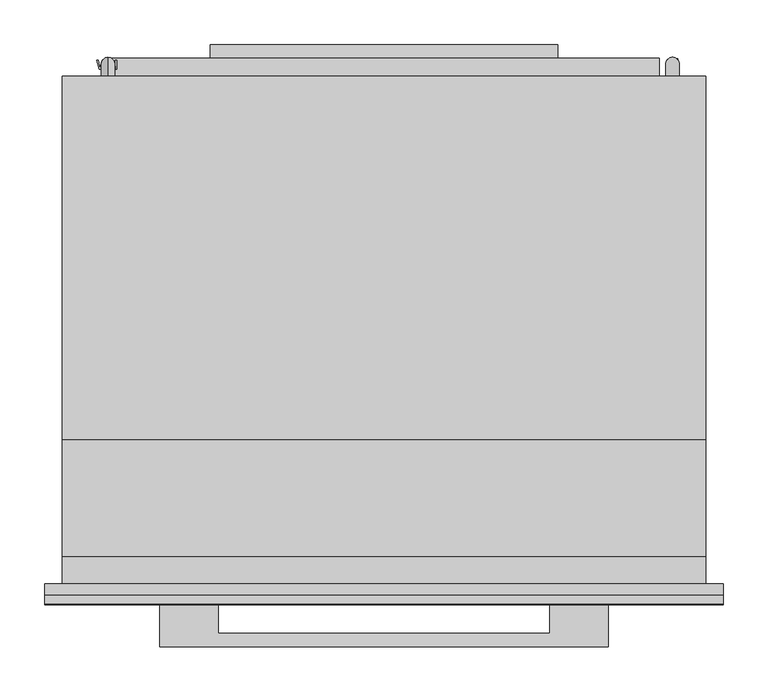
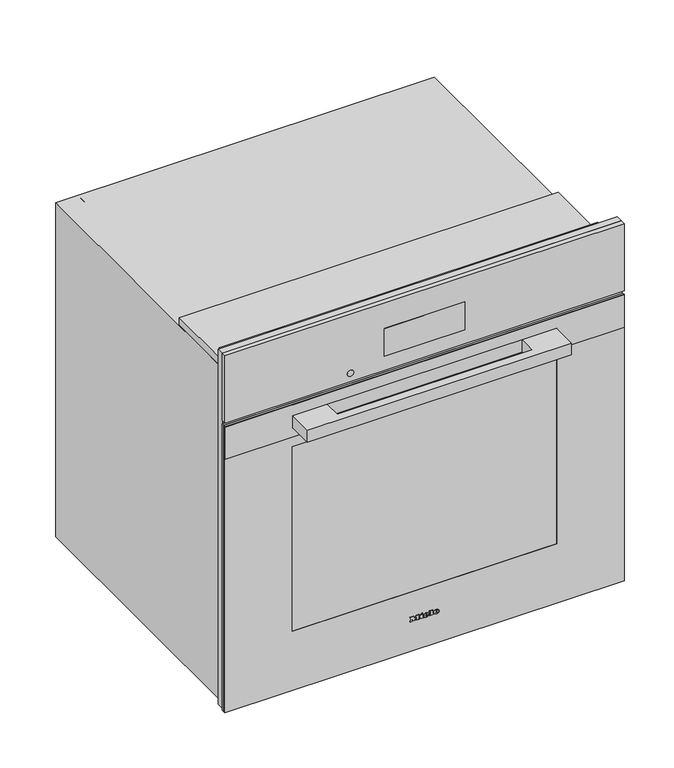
"""IFC4 building model written with IfcOpenShell, lengths in millimetres: proxy geometry, 11788890_BR_H7880BP_EDST-CLST : 22788045_BR_11788890_H7880BP_EDST-CLST."""

from ifc_helpers import new_model, si_unit, point, frame, frame_2d, origin, place, context, project, spatial, polyline, circle_curve, ellipse_curve, trimmed, segment, composite_curve, outline, extrude, faceted_brep, source, transform, mapped, element, save
from ifc_brep_helpers import plane_surface, cylinder_surface, revolved_surface, extruded_surface, advanced_brep


def specialty_equipment_fb274056(model_context):
    return source(origin(), model_context, "Body", "SolidModel", [
        advanced_brep(
        [(21.28, -23.0, 73.133), (21.28, -23.0, 74.042), (27.301, -23.0, 74.042), (16.825, -23.0, 74.042), (19.3, -23.0, 71.0), (27.148, -23.0, 73.133), (24.43, -23.0, 73.133), (22.288, -23.0, 72.125), (21.28, -23.0, 75.194), (21.28, -23.0, 76.175), (22.819, -23.0, 76.175), (22.819, -23.0, 75.194), (21.28, -22.0, 73.133), (22.288, -22.0, 72.125), (24.43, -22.0, 73.133), (27.148, -22.0, 73.133), (19.3, -22.0, 71.0), (16.825, -22.0, 74.042), (27.301, -22.0, 74.042), (21.28, -22.0, 74.042), (21.28, -22.0, 75.194), (22.819, -22.0, 75.194), (22.819, -22.0, 76.175), (21.28, -22.0, 76.175)],
        [
            (0, 1),
            (1, 2),
            (2, 3, ellipse_curve(frame((22.063, -23.0, 74.042), z_axis=(0.0, -1.0, 0.0), x_axis=(-1.0, 0.0, 0.0)), 5.238, 4.329)),
            (3, 4, circle_curve(frame((20.3080491, -23.0, 74.348), z_axis=(0.0, -1.0, 0.0), x_axis=(0.0, 0.0, -1.0)), 3.4964649)),
            (4, 5, circle_curve(frame((21.9581428, -23.0, 76.724), z_axis=(0.0, -1.0, 0.0), x_axis=(0.0, 0.0, -1.0)), 6.3110933)),
            (5, 6),
            (6, 7, circle_curve(frame((22.7279412, -23.0, 73.97), z_axis=(0.0, 1.0, 0.0), x_axis=(0.0, 0.0, -1.0)), 1.896727)),
            (7, 0, circle_curve(frame((22.288, -23.0, 73.133), z_axis=(0.0, 1.0, 0.0), x_axis=(0.0, 0.0, -1.0)), 1.008)),
            (8, 9),
            (9, 10, circle_curve(frame((22.0495, -23.0, 76.175), z_axis=(0.0, 1.0, 0.0), x_axis=(0.0, 0.0, -1.0)), 0.7695)),
            (10, 11),
            (11, 8),
            (12, 13, circle_curve(frame((22.288, -22.0, 73.133), z_axis=(0.0, -1.0, 0.0), x_axis=(0.0, 0.0, -1.0)), 1.008)),
            (13, 14, circle_curve(frame((22.7279412, -22.0, 73.97), z_axis=(0.0, -1.0, 0.0), x_axis=(0.0, 0.0, -1.0)), 1.896727)),
            (14, 15),
            (15, 16, circle_curve(frame((21.9581428, -22.0, 76.724), z_axis=(0.0, 1.0, 0.0), x_axis=(0.0, 0.0, -1.0)), 6.3110933)),
            (16, 17, circle_curve(frame((20.3080491, -22.0, 74.348), z_axis=(0.0, 1.0, 0.0), x_axis=(0.0, 0.0, -1.0)), 3.4964649)),
            (17, 18, ellipse_curve(frame((22.063, -22.0, 74.042), z_axis=(0.0, 1.0, 0.0), x_axis=(-1.0, 0.0, 0.0)), 5.238, 4.329)),
            (18, 19),
            (19, 12),
            (20, 21),
            (21, 22),
            (22, 23, circle_curve(frame((22.0495, -22.0, 76.175), z_axis=(0.0, -1.0, 0.0), x_axis=(0.0, 0.0, -1.0)), 0.7695)),
            (23, 20),
            (0, 12),
            (19, 1),
            (18, 2),
            (5, 15),
            (14, 6),
            (17, 3),
            (13, 7),
            (16, 4),
            (8, 20),
            (23, 9),
            (22, 10),
            (21, 11),
        ],
        [
            plane_surface(frame((21.28, -23.0, 74.042), z_axis=(0.0, -1.0, 0.0), x_axis=(0.0, 0.0, 1.0))),
            plane_surface(frame((21.28, -22.0, 74.042), z_axis=(0.0, 1.0, 0.0), x_axis=(0.0, 0.0, -1.0))),
            plane_surface(frame((21.28, -23.0, 73.133), z_axis=(1.0, 0.0, 0.0), x_axis=(0.0, 1.0, 0.0))),
            plane_surface(frame((21.28, -23.0, 74.042), z_axis=(0.0, 0.0, -1.0), x_axis=(0.0, 1.0, 0.0))),
            plane_surface(frame((27.148, -23.0, 73.133), z_axis=(0.0, 0.0, 1.0), x_axis=(0.0, 1.0, 0.0))),
            extruded_surface(trimmed(ellipse_curve(frame((22.063, -21.0, 74.042), z_axis=(0.0, -1.0, 0.0), x_axis=(-1.0, 0.0, 0.0)), 5.238, 4.329), [point((27.301, -21.0, 74.042))], [point((16.825, -21.0, 74.042))], True, "CARTESIAN"), (0.0, -1.0, 0.0), 1.0),
            revolved_surface(polyline([(22.7279412, -22.0, 72.073273), (22.7279412, -23.0, 72.073273)]), (22.7279412, -22.0, 73.97), (0.0, 1.0, 0.0)),
            revolved_surface(polyline([(22.288, -22.0, 72.125), (22.288, -23.0, 72.125)]), (22.288, -22.0, 73.133), (0.0, 1.0, 0.0)),
            cylinder_surface(frame((20.3080491, -22.0, 74.348), z_axis=(0.0, -1.0, 0.0), x_axis=(0.0, 0.0, -1.0)), 3.4964649),
            cylinder_surface(frame((21.9581428, -22.0, 76.724), z_axis=(0.0, -1.0, 0.0), x_axis=(0.0, 0.0, -1.0)), 6.3110933),
            plane_surface(frame((21.28, -23.0, 75.194), z_axis=(1.0, 0.0, 0.0), x_axis=(0.0, 1.0, 0.0))),
            revolved_surface(polyline([(22.0495, -22.0, 75.4055), (22.0495, -23.0, 75.4055)]), (22.0495, -22.0, 76.175), (0.0, 1.0, 0.0)),
            plane_surface(frame((22.819, -23.0, 76.175), z_axis=(-1.0, 0.0, 0.0), x_axis=(0.0, 1.0, 0.0))),
            plane_surface(frame((22.819, -23.0, 75.194), z_axis=(0.0, 0.0, 1.0), x_axis=(0.0, 1.0, 0.0))),
        ],
        [
            (0, [[1, 2, 3, 4, 5, 6, 7, 8], [9, 10, 11, 12]]),
            (1, [[13, 14, 15, 16, 17, 18, 19, 20], [21, 22, 23, 24]]),
            (2, [[-1, 25, -20, 26]]),
            (3, [[-2, -26, -19, 27]]),
            (4, [[-6, 28, -15, 29]]),
            (5, [[-3, -27, -18, 30]]),
            (6, [[-7, -29, -14, 31]]),
            (7, [[-8, -31, -13, -25]]),
            (8, [[-4, -30, -17, 32]]),
            (9, [[-5, -32, -16, -28]]),
            (10, [[-9, 33, -24, 34]]),
            (11, [[-10, -34, -23, 35]]),
            (12, [[-11, -35, -22, 36]]),
            (13, [[-12, -36, -21, -33]]),
        ],
    ),
        advanced_brep(
        [(2.497, -23.0, 73.133), (2.497, -23.0, 74.042), (8.518, -23.0, 74.042), (-1.958, -23.0, 74.042), (0.517, -23.0, 71.0), (8.365, -23.0, 73.133), (5.647, -23.0, 73.133), (3.505, -23.0, 72.125), (2.497, -23.0, 75.194), (2.497, -23.0, 76.175), (4.036, -23.0, 76.175), (4.036, -23.0, 75.194), (2.497, -22.0, 73.133), (3.505, -22.0, 72.125), (5.647, -22.0, 73.133), (8.365, -22.0, 73.133), (0.517, -22.0, 71.0), (-1.958, -22.0, 74.042), (8.518, -22.0, 74.042), (2.497, -22.0, 74.042), (2.497, -22.0, 75.194), (4.036, -22.0, 75.194), (4.036, -22.0, 76.175), (2.497, -22.0, 76.175)],
        [
            (0, 1),
            (1, 2),
            (2, 3, ellipse_curve(frame((3.28, -23.0, 74.042), z_axis=(0.0, -1.0, 0.0), x_axis=(-1.0, 0.0, 0.0)), 5.238, 4.329)),
            (3, 4, circle_curve(frame((1.5250491, -23.0, 74.348), z_axis=(0.0, -1.0, 0.0), x_axis=(0.0, 0.0, -1.0)), 3.4964649)),
            (4, 5, circle_curve(frame((3.1751428, -23.0, 76.724), z_axis=(0.0, -1.0, 0.0), x_axis=(0.0, 0.0, -1.0)), 6.3110933)),
            (5, 6),
            (6, 7, circle_curve(frame((3.9449412, -23.0, 73.97), z_axis=(0.0, 1.0, 0.0), x_axis=(0.0, 0.0, -1.0)), 1.896727)),
            (7, 0, circle_curve(frame((3.505, -23.0, 73.133), z_axis=(0.0, 1.0, 0.0), x_axis=(0.0, 0.0, -1.0)), 1.008)),
            (8, 9),
            (9, 10, circle_curve(frame((3.2665, -23.0, 76.175), z_axis=(0.0, 1.0, 0.0), x_axis=(0.0, 0.0, -1.0)), 0.7695)),
            (10, 11),
            (11, 8),
            (12, 13, circle_curve(frame((3.505, -22.0, 73.133), z_axis=(0.0, -1.0, 0.0), x_axis=(0.0, 0.0, -1.0)), 1.008)),
            (13, 14, circle_curve(frame((3.9449412, -22.0, 73.97), z_axis=(0.0, -1.0, 0.0), x_axis=(0.0, 0.0, -1.0)), 1.896727)),
            (14, 15),
            (15, 16, circle_curve(frame((3.1751428, -22.0, 76.724), z_axis=(0.0, 1.0, 0.0), x_axis=(0.0, 0.0, -1.0)), 6.3110933)),
            (16, 17, circle_curve(frame((1.5250491, -22.0, 74.348), z_axis=(0.0, 1.0, 0.0), x_axis=(0.0, 0.0, -1.0)), 3.4964649)),
            (17, 18, ellipse_curve(frame((3.28, -22.0, 74.042), z_axis=(0.0, 1.0, 0.0), x_axis=(-1.0, 0.0, 0.0)), 5.238, 4.329)),
            (18, 19),
            (19, 12),
            (20, 21),
            (21, 22),
            (22, 23, circle_curve(frame((3.2665, -22.0, 76.175), z_axis=(0.0, -1.0, 0.0), x_axis=(0.0, 0.0, -1.0)), 0.7695)),
            (23, 20),
            (0, 12),
            (19, 1),
            (18, 2),
            (5, 15),
            (14, 6),
            (17, 3),
            (13, 7),
            (16, 4),
            (8, 20),
            (23, 9),
            (22, 10),
            (21, 11),
        ],
        [
            plane_surface(frame((2.497, -23.0, 74.042), z_axis=(0.0, -1.0, 0.0), x_axis=(0.0, 0.0, 1.0))),
            plane_surface(frame((2.497, -22.0, 74.042), z_axis=(0.0, 1.0, 0.0), x_axis=(0.0, 0.0, -1.0))),
            plane_surface(frame((2.497, -23.0, 73.133), z_axis=(1.0, 0.0, 0.0), x_axis=(0.0, 1.0, 0.0))),
            plane_surface(frame((2.497, -23.0, 74.042), z_axis=(0.0, 0.0, -1.0), x_axis=(0.0, 1.0, 0.0))),
            plane_surface(frame((8.365, -23.0, 73.133), z_axis=(0.0, 0.0, 1.0), x_axis=(0.0, 1.0, 0.0))),
            extruded_surface(trimmed(ellipse_curve(frame((3.28, -21.0, 74.042), z_axis=(0.0, -1.0, 0.0), x_axis=(-1.0, 0.0, 0.0)), 5.238, 4.329), [point((8.518, -21.0, 74.042))], [point((-1.958, -21.0, 74.042))], True, "CARTESIAN"), (0.0, -1.0, 0.0), 1.0),
            revolved_surface(polyline([(3.9449412, -22.0, 72.073273), (3.9449412, -23.0, 72.073273)]), (3.9449412, -22.0, 73.97), (0.0, 1.0, 0.0)),
            revolved_surface(polyline([(3.505, -22.0, 72.125), (3.505, -23.0, 72.125)]), (3.505, -22.0, 73.133), (0.0, 1.0, 0.0)),
            cylinder_surface(frame((1.5250491, -22.0, 74.348), z_axis=(0.0, -1.0, 0.0), x_axis=(0.0, 0.0, -1.0)), 3.4964649),
            cylinder_surface(frame((3.1751428, -22.0, 76.724), z_axis=(0.0, -1.0, 0.0), x_axis=(0.0, 0.0, -1.0)), 6.3110933),
            plane_surface(frame((2.497, -23.0, 75.194), z_axis=(1.0, 0.0, 0.0), x_axis=(0.0, 1.0, 0.0))),
            revolved_surface(polyline([(3.2665, -22.0, 75.4055), (3.2665, -23.0, 75.4055)]), (3.2665, -22.0, 76.175), (0.0, 1.0, 0.0)),
            plane_surface(frame((4.036, -23.0, 76.175), z_axis=(-1.0, 0.0, 0.0), x_axis=(0.0, 1.0, 0.0))),
            plane_surface(frame((4.036, -23.0, 75.194), z_axis=(0.0, 0.0, 1.0), x_axis=(0.0, 1.0, 0.0))),
        ],
        [
            (0, [[1, 2, 3, 4, 5, 6, 7, 8], [9, 10, 11, 12]]),
            (1, [[13, 14, 15, 16, 17, 18, 19, 20], [21, 22, 23, 24]]),
            (2, [[-1, 25, -20, 26]]),
            (3, [[-2, -26, -19, 27]]),
            (4, [[-6, 28, -15, 29]]),
            (5, [[-3, -27, -18, 30]]),
            (6, [[-7, -29, -14, 31]]),
            (7, [[-8, -31, -13, -25]]),
            (8, [[-4, -30, -17, 32]]),
            (9, [[-5, -32, -16, -28]]),
            (10, [[-9, 33, -24, 34]]),
            (11, [[-10, -34, -23, 35]]),
            (12, [[-11, -35, -22, 36]]),
            (13, [[-12, -36, -21, -33]]),
        ],
    ),
        extrude(outline(polyline([(79.469, -7.34), (78.011, -6.656), (79.433, -3.605), (80.891, -4.28), (79.469, -7.34)])), frame((0.0, -23.0, 0.0), z_axis=(0.0, 1.0, 0.0), x_axis=(0.0, 0.0, 1.0)), (0.0, 0.0, 1.0), 1.0),
        extrude(outline(polyline([(77.813, -9.563), (76.202, -9.563), (76.202, -8.492), (72.512, -8.492), (72.512, -9.563), (71.0, -9.563), (71.0, -2.462), (72.512, -2.462), (72.512, -3.506), (77.813, -3.506), (77.813, -9.563)])), frame((0.0, -23.0, 0.0), z_axis=(0.0, 1.0, 0.0), x_axis=(0.0, 0.0, 1.0)), (0.0, 0.0, 1.0), 1.0),
        extrude(outline(polyline([(78.533, 9.022), (78.533, 10.102), (72.512, 10.102), (72.512, 9.022), (71.0, 9.022), (71.0, 16.321), (72.512, 16.321), (72.512, 15.214), (80.0, 15.214), (80.0, 9.022), (78.533, 9.022)])), frame((0.0, -23.0, 0.0), z_axis=(0.0, 1.0, 0.0), x_axis=(0.0, 0.0, 1.0)), (0.0, 0.0, 1.0), 1.0),
        extrude(outline(polyline([(78.533, -27.5), (78.533, -26.411), (72.512, -26.411), (72.512, -27.5), (71.0, -27.5), (71.0, -23.54), (72.512, -23.54), (72.512, -24.62), (76.3341247, -24.62), (71.0, -20.597), (76.4402223, -16.556), (72.512, -16.556), (72.512, -17.663), (71.0, -17.663), (71.0, -10.481), (72.512, -10.481), (72.512, -11.624), (78.533, -11.624), (78.533, -10.481), (80.0, -10.481), (80.0, -15.962), (76.625, -18.59), (80.0, -21.227), (80.0, -27.5), (78.533, -27.5)])), frame((0.0, -23.0, 0.0), z_axis=(0.0, 1.0, 0.0), x_axis=(0.0, 0.0, 1.0)), (0.0, 0.0, 1.0), 1.0),
        extrude(outline(polyline([(-250.0, -70.3), (-250.0, -22.0), (-185.0, -22.0), (-185.0, -55.3), (185.0, -55.3), (185.0, -22.0), (250.0, -22.0), (250.0, -70.3), (-250.0, -70.3)])), frame((0.0, 0.0, 538.0), z_axis=(0.0, 0.0, 1.0), x_axis=(1.0, 0.0, 0.0)), (0.0, 0.0, 1.0), 24.0),
        extrude(outline(polyline([(585.0, 378.5), (585.0, -378.5), (11.0, -378.5), (11.0, 378.5), (585.0, 378.5)]), holes=[polyline([(500.0, 250.5), (130.0, 250.5), (130.0, -250.5), (500.0, -250.5), (500.0, 250.5)])]), frame((0.0, -22.0, 0.0), z_axis=(0.0, 1.0, 0.0), x_axis=(0.0, 0.0, 1.0)), (0.0, 0.0, 1.0), 4.0),
        extrude(outline(polyline([(585.0, 378.5), (585.0, -378.5), (520.0, -378.5), (520.0, 378.5), (585.0, 378.5)]), holes=[polyline([(562.5, -250.5), (562.5, 250.5), (537.5, 250.5), (537.5, -250.5), (562.5, -250.5)])]), frame((0.0, -23.3, 0.0), z_axis=(0.0, 1.0, 0.0), x_axis=(0.0, 0.0, 1.0)), (0.0, 0.0, 1.0), 1.3),
        extrude(outline(polyline([(378.5, -18.0), (-378.5, -18.0), (-378.5, -13.0), (378.5, -13.0), (378.5, -18.0)])), frame((0.0, 0.0, 11.0), z_axis=(0.0, 0.0, 1.0), x_axis=(1.0, 0.0, 0.0)), (0.0, 0.0, 1.0), 574.0),
        extrude(outline(polyline([(-250.5, -18.0), (250.5, -18.0), (250.5, -22.0), (-250.5, -22.0), (-250.5, -18.0)])), frame((0.0, 0.0, 130.0), z_axis=(0.0, 0.0, 1.0), x_axis=(1.0, 0.0, 0.0)), (0.0, 0.0, 1.0), 370.0),
        extrude(outline(polyline([(-76.5, -21.0), (76.5, -21.0), (76.5, -22.0), (-76.5, -22.0), (-76.5, -21.0)])), frame((0.0, 0.0, 620.0), z_axis=(0.0, 0.0, 1.0), x_axis=(1.0, 0.0, 0.0)), (0.0, 0.0, 1.0), 56.0),
        faceted_brep([(378.5, -22.0, 727.0), (-378.5, -22.0, 727.0), (-378.5, -22.0, 592.0), (378.5, -22.0, 592.0), (76.5, -22.0, 676.0), (76.5, -22.0, 620.0), (-76.5, -22.0, 620.0), (-76.5, -22.0, 676.0), (378.5, -13.0, 727.0), (378.5, -13.0, 592.0), (-378.5, -13.0, 592.0), (-378.5, -13.0, 727.0), (76.5, -21.0, 676.0), (-76.5, -21.0, 676.0), (-76.5, -21.0, 620.0), (76.5, -21.0, 620.0)], [[[0, 1, 2, 3], [4, 5, 6, 7]], [[8, 9, 10, 11]], [[1, 0, 8, 11]], [[2, 1, 11, 10]], [[3, 2, 10, 9]], [[0, 3, 9, 8]], [[12, 13, 14, 15]], [[12, 15, 5, 4]], [[15, 14, 6, 5]], [[14, 13, 7, 6]], [[13, 12, 4, 7]]]),
        extrude(outline(composite_curve([segment(trimmed(circle_curve(frame_2d((609.0, -140.5745637)), 6.0), [point((609.0, -146.5745637))], [point((609.0, -134.5745637))], False, "CARTESIAN"), True, "CONTINUOUS"), segment(trimmed(circle_curve(frame_2d((609.0, -140.5745637)), 6.0), [point((609.0, -134.5745637))], [point((609.0, -146.5745637))], False, "CARTESIAN"), True, "CONTINUOUS")], self_intersect=False)), frame((0.0, -22.5, 0.0), z_axis=(0.0, 1.0, 0.0), x_axis=(0.0, 0.0, 1.0)), (0.0, 0.0, 1.0), 1.0),
        extrude(outline(polyline([(327.856335, 586.4164958), (327.856335, 576.4164958), (322.0, 576.4164958), (322.0, 577.4164958), (326.856335, 577.4164958), (326.856335, 580.9164958), (323.9061855, 580.9164958), (323.9061855, 581.9164958), (326.856335, 581.9164958), (326.856335, 585.4164958), (322.0, 585.4164958), (322.0, 586.4164958), (327.856335, 586.4164958)])), frame((0.0, 0.0, 585.0), z_axis=(0.0, 0.0, 1.0), x_axis=(1.0, 0.0, 0.0)), (0.0, 0.0, 1.0), 1.0),
        extrude(outline(polyline([(320.5, 576.4164958), (315.5, 576.4164958), (315.5, 577.4164958), (319.3952098, 577.4164958), (319.3952098, 586.4164958), (320.5, 586.4164958), (320.5, 576.4164958)])), frame((0.0, 0.0, 585.0), z_axis=(0.0, 0.0, 1.0), x_axis=(1.0, 0.0, 0.0)), (0.0, 0.0, 1.0), 1.0),
        advanced_brep(
        [(329.5, 567.0, 616.0), (314.5, 567.0, 616.0), (329.5, 580.5, 616.0), (314.5, 580.5, 616.0), (329.5, 580.5, 586.0), (314.5, 580.5, 586.0)],
        [
            (0, 1, circle_curve(frame((322.0, 567.0, 616.0), z_axis=(0.0, -1.0, 0.0), x_axis=(-1.0, 0.0, 0.0)), 7.5)),
            (1, 0, circle_curve(frame((322.0, 567.0, 616.0), z_axis=(0.0, -1.0, 0.0), x_axis=(-1.0, 0.0, 0.0)), 7.5)),
            (0, 2),
            (2, 3, ellipse_curve(frame((322.0, 580.5, 616.0), z_axis=(0.0, -0.7071067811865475, 0.7071067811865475), x_axis=(0.0, -0.7071067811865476, -0.7071067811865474)), 10.6066017, 7.5)),
            (3, 1),
            (3, 2, ellipse_curve(frame((322.0, 580.5, 616.0), z_axis=(0.0, -0.7071067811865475, 0.7071067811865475), x_axis=(0.0, -0.7071067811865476, -0.7071067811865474)), 10.6066017, 7.5)),
            (4, 5, circle_curve(frame((322.0, 580.5, 586.0), z_axis=(0.0, 0.0, -1.0), x_axis=(-1.0, 0.0, 0.0)), 7.5)),
            (5, 4, circle_curve(frame((322.0, 580.5, 586.0), z_axis=(0.0, 0.0, -1.0), x_axis=(-1.0, 0.0, 0.0)), 7.5)),
            (2, 4),
            (5, 3),
        ],
        [
            plane_surface(frame((322.0, 567.0, 616.0), z_axis=(0.0, -1.0, 0.0), x_axis=(-1.0, 0.0, 0.0))),
            cylinder_surface(frame((322.0, 567.0, 616.0), z_axis=(0.0, -1.0, 0.0), x_axis=(-1.0, 0.0, 0.0)), 7.5),
            plane_surface(frame((322.0, 580.5, 586.0), z_axis=(0.0, 0.0, -1.0), x_axis=(-1.0, 0.0, 0.0))),
            cylinder_surface(frame((322.0, 580.5, 616.0), z_axis=(0.0, 0.0, 1.0), x_axis=(-1.0, 0.0, 0.0)), 7.5),
        ],
        [
            (0, [[1, 2]]),
            (1, [[-1, 3, 4, 5]]),
            (1, [[-2, -5, 6, -3]]),
            (2, [[7, 8]]),
            (3, [[-4, 9, -8, 10]]),
            (3, [[-6, -10, -7, -9]]),
        ],
    ),
        extrude(outline(polyline([(-299.6202453, 584.6579034), (-298.3679159, 584.6579034), (-298.3679159, 574.6085654), (-299.6149696, 574.6085654), (-299.6149696, 578.0788376), (-301.2450476, 579.7089156), (-305.0884371, 574.6085654), (-306.7066233, 574.6085654), (-302.2301778, 580.5490092), (-306.5150452, 584.6543198), (-304.7713587, 584.6543198), (-299.6202453, 579.7190632), (-299.6202453, 584.6579034)])), frame((0.0, 0.0, 614.0), z_axis=(0.0, 0.0, 1.0), x_axis=(1.0, 0.0, 0.0)), (0.0, 0.0, 1.0), 1.0),
        extrude(outline(polyline([(-307.9869589, 584.6543198), (-306.6749258, 584.6543198), (-309.4307199, 574.6085654), (-310.9513148, 574.6085654), (-313.5193527, 583.4401554), (-316.2529808, 574.6085654), (-317.6013152, 574.6085654), (-320.3417347, 584.6663082), (-319.072273, 584.6663082), (-316.9158246, 576.0172661), (-314.4357517, 584.6663082), (-312.5770153, 584.6663082), (-310.0671021, 576.0346114), (-307.9869589, 584.6543198)])), frame((0.0, 0.0, 614.0), z_axis=(0.0, 0.0, 1.0), x_axis=(1.0, 0.0, 0.0)), (0.0, 0.0, 1.0), 1.0),
        advanced_brep(
        [(-308.0, 573.0, 615.0), (-308.0, 588.0, 615.0), (-308.0, 573.0, 637.5), (-308.0, 588.0, 652.5), (-308.0, 559.0, 637.5), (-308.0, 559.0, 652.5)],
        [
            (0, 1, circle_curve(frame((-308.0, 580.5, 615.0), z_axis=(0.0, 0.0, -1.0), x_axis=(0.0, 1.0, 0.0)), 7.5)),
            (1, 0, circle_curve(frame((-308.0, 580.5, 615.0), z_axis=(0.0, 0.0, -1.0), x_axis=(0.0, 1.0, 0.0)), 7.5)),
            (0, 2),
            (2, 3, ellipse_curve(frame((-308.0, 580.5, 645.0), z_axis=(0.0, 0.7071067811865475, -0.7071067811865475), x_axis=(0.0, -0.7071067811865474, -0.7071067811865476)), 10.6066017, 7.5)),
            (3, 1),
            (3, 2, ellipse_curve(frame((-308.0, 580.5, 645.0), z_axis=(0.0, 0.7071067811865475, -0.7071067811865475), x_axis=(0.0, -0.7071067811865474, -0.7071067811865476)), 10.6066017, 7.5)),
            (4, 5, circle_curve(frame((-308.0, 559.0, 645.0), z_axis=(0.0, -1.0, 0.0), x_axis=(0.0, 0.0, 1.0)), 7.5)),
            (5, 4, circle_curve(frame((-308.0, 559.0, 645.0), z_axis=(0.0, -1.0, 0.0), x_axis=(0.0, 0.0, 1.0)), 7.5)),
            (2, 4),
            (5, 3),
        ],
        [
            plane_surface(frame((-308.0, 580.5, 615.0), z_axis=(0.0, 0.0, -1.0), x_axis=(-1.0, 0.0, 0.0))),
            cylinder_surface(frame((-308.0, 580.5, 615.0), z_axis=(0.0, 0.0, -1.0), x_axis=(0.0, 1.0, 0.0)), 7.5),
            plane_surface(frame((-308.0, 559.0, 645.0), z_axis=(0.0, -1.0, 0.0), x_axis=(-1.0, 0.0, 0.0))),
            cylinder_surface(frame((-308.0, 580.5, 645.0), z_axis=(0.0, 1.0, 0.0), x_axis=(0.0, 0.0, 1.0)), 7.5),
        ],
        [
            (0, [[1, 2]]),
            (1, [[-1, 3, 4, 5]]),
            (1, [[-2, -5, 6, -3]]),
            (2, [[7, 8]]),
            (3, [[-4, 9, -8, 10]]),
            (3, [[-6, -10, -7, -9]]),
        ],
    ),
        faceted_brep([(353.5, 25.0, 593.0), (-353.5, 25.0, 593.0), (-353.5, 25.0, 15.0), (353.5, 25.0, 15.0), (-312.5, 25.0, 526.0), (312.5, 25.0, 526.0), (312.5, 25.0, 103.0), (-312.5, 25.0, 103.0), (353.5, 0.0, 593.0), (-353.5, 0.0, 593.0), (-353.5, 0.0, 15.0), (353.5, 0.0, 15.0), (359.0, 0.0, 670.0), (359.0, 0.0, 0.0), (359.0, 567.0, 0.0), (359.0, 567.0, 670.0), (-359.0, 0.0, 0.0), (-359.0, 0.0, 670.0), (-359.0, 567.0, 670.0), (-359.0, 567.0, 0.0), (-307.0, 567.0, 0.0), (-307.0, 587.0, 0.0), (307.0, 587.0, 0.0), (307.0, 567.0, 0.0), (-307.0, 587.0, 584.0), (307.0, 587.0, 584.0), (312.5, 433.0, 526.0), (-312.5, 433.0, 526.0), (-312.5, 433.0, 103.0), (312.5, 433.0, 103.0), (-307.0, 567.0, 584.0), (307.0, 567.0, 584.0)], [[[0, 1, 2, 3], [4, 5, 6, 7]], [[1, 0, 8, 9]], [[2, 1, 9, 10]], [[0, 3, 11, 8]], [[12, 13, 14, 15]], [[16, 17, 18, 19]], [[13, 16, 19, 20, 21, 22, 23, 14]], [[22, 21, 24, 25]], [[17, 12, 15, 18]], [[16, 13, 12, 17], [9, 8, 11, 10]], [[26, 27, 28, 29]], [[27, 26, 5, 4]], [[28, 27, 4, 7]], [[29, 28, 7, 6]], [[26, 29, 6, 5]], [[3, 2, 10, 11]], [[25, 24, 30, 31]], [[20, 30, 24, 21]], [[14, 23, 31, 30, 20, 19, 18, 15]], [[31, 23, 22, 25]]]),
        extrude(outline(polyline([(-194.0, 602.0), (194.0, 602.0), (194.0, 587.0), (-194.0, 587.0), (-194.0, 602.0)])), frame((0.0, 0.0, 230.0), z_axis=(0.0, 0.0, 1.0), x_axis=(1.0, 0.0, 0.0)), (0.0, 0.0, 1.0), 158.0),
        extrude(outline(polyline([(30.0, 705.0), (30.0, 686.0), (161.0, 686.0), (161.0, 670.0), (0.0, 670.0), (0.0, 705.0), (30.0, 705.0)])), frame((-359.0, 0.0, 0.0), z_axis=(1.0, 0.0, 0.0), x_axis=(0.0, 1.0, 0.0)), (0.0, 0.0, 1.0), 718.0),
        extrude(outline(polyline([(15.0, 378.5), (727.0, 378.5), (727.0, -378.5), (15.0, -378.5), (15.0, -353.5), (593.0, -353.5), (593.0, 353.5), (15.0, 353.5), (15.0, 378.5)])), frame((0.0, -13.0, 0.0), z_axis=(0.0, 1.0, 0.0), x_axis=(0.0, 0.0, 1.0)), (0.0, 0.0, 1.0), 13.0),
    ])


if __name__ == "__main__":
    model = new_model("IFC4")
    model_context = context("Model", 3, world=origin())
    ifc_project = project(units=[si_unit("LENGTHUNIT", "METRE", prefix="MILLI")], contexts=[model_context])
    site = spatial("IfcSite", under=ifc_project)
    building = spatial("IfcBuilding", under=site)
    placement = place(None, origin())
    specialty_equipment_shape = specialty_equipment_fb274056(model_context)
    element("IfcBuildingElementProxy", 1, Name="11788890_BR_H7880BP_EDST-CLST : 22788045_BR_11788890_H7880BP_EDST-CLST", ObjectType="11788890_BR_H7880BP_EDST-CLST : 22788045_BR_11788890_H7880BP_EDST-CLST", at=placement, inside=building, context=model_context, shape_type="MappedRepresentation", body=[
        mapped(specialty_equipment_shape, transform((0.0, 0.0, 0.0), x_axis=(1.0, 0.0, 0.0), y_axis=(0.0, 1.0, 0.0), z_axis=(0.0, 0.0, 1.0))),
    ])
    save(model, "model.ifc")
